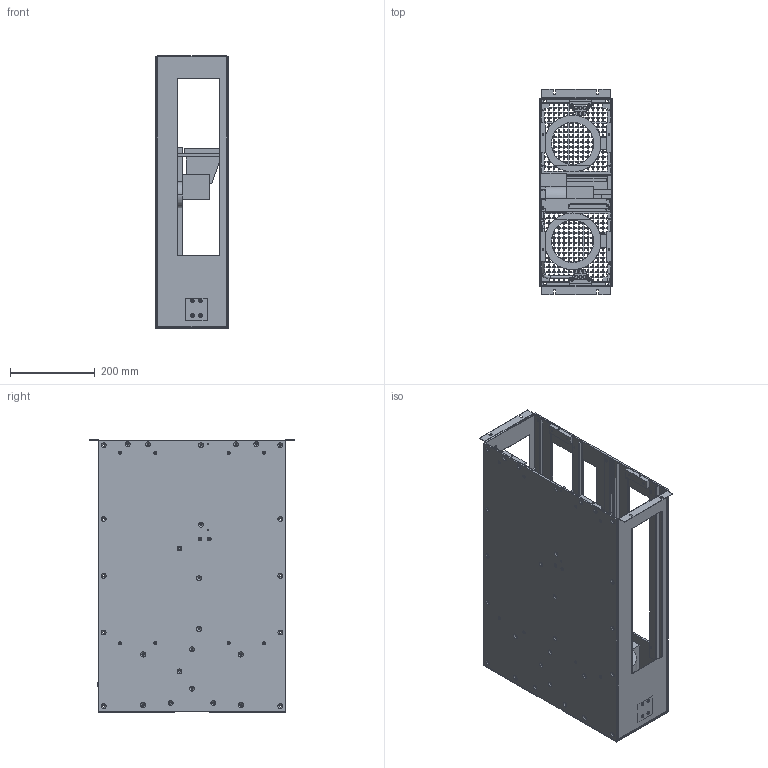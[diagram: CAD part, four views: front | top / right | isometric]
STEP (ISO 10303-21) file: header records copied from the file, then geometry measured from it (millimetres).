
FILE_DESCRIPTION(('HOOPS Exchange Step'),'2;1');
FILE_NAME('C:\hadoop-env\accvizpipeline-1.0.0\AccVizTemp_2vhpfbdefk0\out_2843a0b0-e7cd-4024-b504-d2091dc783c4.stp','2021-05-13T14:12:56+02:00',('plmconv'),('Unknown organisation'),'HOOPS Exchange 2020.2','HOOPS Exchange','Unknown authorisation');
FILE_SCHEMA( ('AP242_MANAGED_MODEL_BASED_3D_ENGINEERING_MIM_LF {1 0 10303 442 1 1 4 }') );
Length unit declared in the file: millimetre
Products named in the file (35): ST0821752_01; ST0821748_01; ST0821749_01; ST0821754_01; ST0821755_01; ST0817795_01; ST0817794_01; ST0725769_01; ST0724993_01; ST0730095_01; ISO 4762 M3x20-A4_01; ST0821869_01; ISO 4762_M3x16-8.8-A0C_01; ST0730013_01(ST0730013_01.1); ST0730013_01(ST0730013_01.2); ST0810037_01; ST0732922_01; ISO 2009_M3x10-A4_01; ISO 10511_M3-8-A0U_01; ISO 7046-1_M5x12_H-A4_01; ISO 7046-1_M4x12_H-4.8-A0U_01; ST0823700_01; Product1(Visserie); ST0821029_01; ST0821092_01; ST0821075_01; ST0821134_01; ST0821139_01; ST0824774_01; ST0824795_01; ST0824747_01; ST0824737_01; ST0824897_01; ST0824932_01; ST0821815_01
Assembly tree (55 placements, depth 3):
  ST0821815_01
    ST0821752_01
    ST0821748_01
    ST0821749_01
    ST0821754_01
    ST0821755_01  x8
    ST0817795_01  x2
    ST0817794_01  x2
    ST0725769_01  x2
    ST0730013_01(ST0730013_01.1)
      ST0724993_01
      ST0730095_01
      ISO 4762 M3x20-A4_01
      ST0821869_01
      ISO 4762_M3x16-8.8-A0C_01
    ST0730013_01(ST0730013_01.2)
      ST0724993_01
      ST0730095_01
      ISO 4762 M3x20-A4_01
      ST0821869_01
      ISO 4762_M3x16-8.8-A0C_01
    ST0810037_01  x4
    Product1(Visserie)
      ST0732922_01
      ISO 2009_M3x10-A4_01
      ISO 10511_M3-8-A0U_01
      ISO 7046-1_M5x12_H-A4_01
      ISO 7046-1_M4x12_H-4.8-A0U_01
      ST0823700_01
    ST0821029_01  x2
    ST0821092_01
    ST0821075_01
    ST0821134_01  x2
    ST0821139_01
    ST0824774_01
    ST0824795_01
    ST0824747_01
    ST0824737_01  x2
    ST0824897_01
    ST0824932_01
Bounding box: 174 x 485 x 644 mm (x, y, z)
Volume: 6412772.7 mm3; surface area: 2509693.4 mm2
Topology: 52 solids, 52 shells, 3135 faces, 8514 edges, 5499 vertices
Faces by surface type: plane 2079, cylinder 650, cone 338, torus 44, bspline 24
Entity records: 66091 total; most frequent: CARTESIAN_POINT 13465, DIRECTION 10612, ORIENTED_EDGE 10534, EDGE_CURVE 5267, VECTOR 3852, LINE 3852, AXIS2_PLACEMENT_3D 3380, VERTEX_POINT 3367
